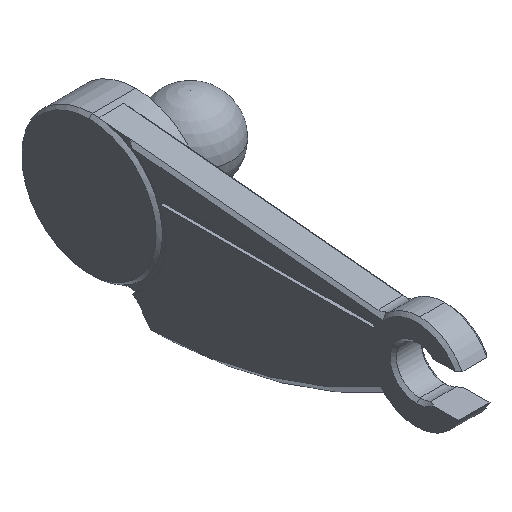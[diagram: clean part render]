
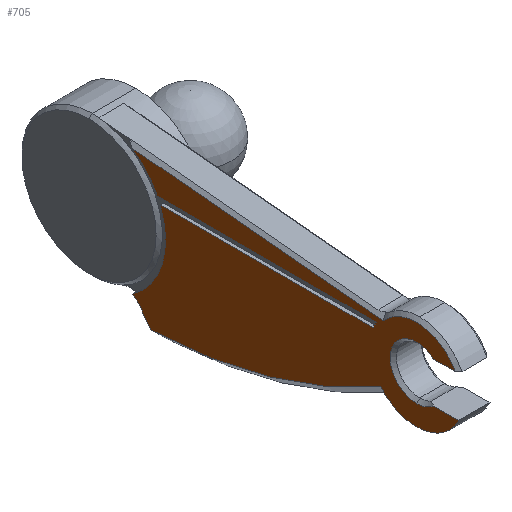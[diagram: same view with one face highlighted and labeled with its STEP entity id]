
A CAD part, isometric view. The second image highlights one B-rep face of the part: STEP entity #705.
In plain terms, the highlighted planar face has unit normal (-1, 0, 0).
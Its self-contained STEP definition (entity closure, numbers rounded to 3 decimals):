
#3 = VERTEX_POINT ( 'NONE', #1080 ) ;
#10 = CARTESIAN_POINT ( 'NONE',  ( 0., 0., 0. ) ) ;
#16 = CARTESIAN_POINT ( 'NONE',  ( 0., 14.078, -10.228 ) ) ;
#37 = ORIENTED_EDGE ( 'NONE', *, *, #1153, .T. ) ;
#50 = ORIENTED_EDGE ( 'NONE', *, *, #354, .T. ) ;
#62 = DIRECTION ( 'NONE',  ( 1., 0., 0. ) ) ;
#78 = EDGE_CURVE ( 'NONE', #1399, #124, #428, .T. ) ;
#109 = EDGE_CURVE ( 'NONE', #505, #151, #150, .T. ) ;
#124 = VERTEX_POINT ( 'NONE', #1288 ) ;
#134 = CARTESIAN_POINT ( 'NONE',  ( 0., 0., 0. ) ) ;
#137 = CIRCLE ( 'NONE', #275, 4.9 ) ;
#149 = DIRECTION ( 'NONE',  ( 1., 0., 0. ) ) ;
#150 = LINE ( 'NONE', #689, #819 ) ;
#151 = VERTEX_POINT ( 'NONE', #1274 ) ;
#176 = PLANE ( 'NONE',  #1131 ) ;
#188 = VERTEX_POINT ( 'NONE', #752 ) ;
#198 = DIRECTION ( 'NONE',  ( 0., 0., -1. ) ) ;
#209 = VERTEX_POINT ( 'NONE', #774 ) ;
#212 = CARTESIAN_POINT ( 'NONE',  ( 0., 0., -1.3 ) ) ;
#222 = CIRCLE ( 'NONE', #678, 1. ) ;
#223 = CARTESIAN_POINT ( 'NONE',  ( 0., 2.304, -1.921 ) ) ;
#270 = ORIENTED_EDGE ( 'NONE', *, *, #1417, .F. ) ;
#275 = AXIS2_PLACEMENT_3D ( 'NONE', #603, #427, #198 ) ;
#281 = EDGE_CURVE ( 'NONE', #1363, #413, #1224, .T. ) ;
#290 = ORIENTED_EDGE ( 'NONE', *, *, #300, .T. ) ;
#299 = DIRECTION ( 'NONE',  ( 1., 0., 0. ) ) ;
#300 = EDGE_CURVE ( 'NONE', #3, #813, #1655, .T. ) ;
#301 = AXIS2_PLACEMENT_3D ( 'NONE', #10, #942, #1617 ) ;
#307 = AXIS2_PLACEMENT_3D ( 'NONE', #1066, #1620, #1351 ) ;
#316 = LINE ( 'NONE', #16, #1761 ) ;
#328 = DIRECTION ( 'NONE',  ( 0., 0., -1. ) ) ;
#332 = DIRECTION ( 'NONE',  ( 0., -1., 0. ) ) ;
#338 = AXIS2_PLACEMENT_3D ( 'NONE', #134, #687, #405 ) ;
#348 = DIRECTION ( 'NONE',  ( 0., 0., -1. ) ) ;
#349 = CARTESIAN_POINT ( 'NONE',  ( 0., 18.63, -5.663 ) ) ;
#354 = EDGE_CURVE ( 'NONE', #952, #1497, #621, .T. ) ;
#405 = DIRECTION ( 'NONE',  ( 0., 0., -1. ) ) ;
#413 = VERTEX_POINT ( 'NONE', #909 ) ;
#416 = DIRECTION ( 'NONE',  ( 0., 0., -1. ) ) ;
#420 = EDGE_CURVE ( 'NONE', #209, #188, #222, .T. ) ;
#427 = DIRECTION ( 'NONE',  ( 1., 0., 0. ) ) ;
#428 = LINE ( 'NONE', #1529, #1401 ) ;
#429 = ORIENTED_EDGE ( 'NONE', *, *, #281, .F. ) ;
#446 = DIRECTION ( 'NONE',  ( 1., 0., 0. ) ) ;
#452 = CIRCLE ( 'NONE', #307, 1.7 ) ;
#455 = EDGE_CURVE ( 'NONE', #1497, #505, #452, .T. ) ;
#458 = DIRECTION ( 'NONE',  ( -1., 0., 0. ) ) ;
#462 = DIRECTION ( 'NONE',  ( 0., 0.588, 0.809 ) ) ;
#481 = CARTESIAN_POINT ( 'NONE',  ( 0., 16.622, 1.5 ) ) ;
#492 = VERTEX_POINT ( 'NONE', #1011 ) ;
#496 = VECTOR ( 'NONE', #1343, 1000. ) ;
#505 = VERTEX_POINT ( 'NONE', #515 ) ;
#515 = CARTESIAN_POINT ( 'NONE',  ( 0., -1.095, 1.3 ) ) ;
#529 = ORIENTED_EDGE ( 'NONE', *, *, #109, .T. ) ;
#539 = ORIENTED_EDGE ( 'NONE', *, *, #965, .T. ) ;
#603 = CARTESIAN_POINT ( 'NONE',  ( 0., 21., -0.7 ) ) ;
#613 = ORIENTED_EDGE ( 'NONE', *, *, #941, .T. ) ;
#621 = CIRCLE ( 'NONE', #878, 1.7 ) ;
#669 = ORIENTED_EDGE ( 'NONE', *, *, #420, .T. ) ;
#678 = AXIS2_PLACEMENT_3D ( 'NONE', #349, #1170, #1470 ) ;
#682 = CARTESIAN_POINT ( 'NONE',  ( 0., 0., 0. ) ) ;
#687 = DIRECTION ( 'NONE',  ( 1., 0., 0. ) ) ;
#688 = CARTESIAN_POINT ( 'NONE',  ( 0., 0., -1.7 ) ) ;
#689 = CARTESIAN_POINT ( 'NONE',  ( 0., 0., 1.3 ) ) ;
#702 = VECTOR ( 'NONE', #897, 1000. ) ;
#705 = ADVANCED_FACE ( 'NONE', ( #853 ), #176, .F. ) ;
#707 = DIRECTION ( 'NONE',  ( 0., 0.995, 0.096 ) ) ;
#732 = CIRCLE ( 'NONE', #301, 2.8 ) ;
#741 = CARTESIAN_POINT ( 'NONE',  ( 0., -1.095, -1.3 ) ) ;
#742 = CARTESIAN_POINT ( 'NONE',  ( 0., 0., 0. ) ) ;
#752 = CARTESIAN_POINT ( 'NONE',  ( 0., 17.821, -5.075 ) ) ;
#774 = CARTESIAN_POINT ( 'NONE',  ( 0., 18.234, -4.745 ) ) ;
#779 = LINE ( 'NONE', #1273, #702 ) ;
#786 = EDGE_CURVE ( 'NONE', #492, #1363, #779, .T. ) ;
#795 = CARTESIAN_POINT ( 'NONE',  ( 0., 2.791, 1.1 ) ) ;
#813 = VERTEX_POINT ( 'NONE', #223 ) ;
#819 = VECTOR ( 'NONE', #332, 1000. ) ;
#839 = CARTESIAN_POINT ( 'NONE',  ( 0., 0., 0. ) ) ;
#852 = ORIENTED_EDGE ( 'NONE', *, *, #920, .F. ) ;
#853 = FACE_OUTER_BOUND ( 'NONE', #1505, .T. ) ;
#866 = CARTESIAN_POINT ( 'NONE',  ( 0., 18.07, 25.35 ) ) ;
#875 = AXIS2_PLACEMENT_3D ( 'NONE', #839, #299, #997 ) ;
#878 = AXIS2_PLACEMENT_3D ( 'NONE', #1675, #446, #1547 ) ;
#897 = DIRECTION ( 'NONE',  ( 0., -1., 0. ) ) ;
#901 = ORIENTED_EDGE ( 'NONE', *, *, #78, .T. ) ;
#909 = CARTESIAN_POINT ( 'NONE',  ( 0., 2.598, 1.5 ) ) ;
#920 = EDGE_CURVE ( 'NONE', #413, #1762, #1243, .T. ) ;
#941 = EDGE_CURVE ( 'NONE', #124, #1762, #1160, .T. ) ;
#942 = DIRECTION ( 'NONE',  ( -1., 0., 0. ) ) ;
#952 = VERTEX_POINT ( 'NONE', #688 ) ;
#965 = EDGE_CURVE ( 'NONE', #151, #1399, #732, .T. ) ;
#997 = DIRECTION ( 'NONE',  ( 0., 0., -1. ) ) ;
#1004 = LINE ( 'NONE', #212, #1515 ) ;
#1011 = CARTESIAN_POINT ( 'NONE',  ( 0., 16.443, 1.1 ) ) ;
#1026 = EDGE_CURVE ( 'NONE', #1089, #952, #1250, .T. ) ;
#1049 = EDGE_CURVE ( 'NONE', #492, #209, #137, .T. ) ;
#1066 = CARTESIAN_POINT ( 'NONE',  ( 0., 0., 0. ) ) ;
#1080 = CARTESIAN_POINT ( 'NONE',  ( 0., 17.052, -6.134 ) ) ;
#1089 = VERTEX_POINT ( 'NONE', #741 ) ;
#1131 = AXIS2_PLACEMENT_3D ( 'NONE', #682, #1264, #1679 ) ;
#1153 = EDGE_CURVE ( 'NONE', #1257, #1089, #1004, .T. ) ;
#1159 = CARTESIAN_POINT ( 'NONE',  ( 0., -2.704, -1.3 ) ) ;
#1160 = CIRCLE ( 'NONE', #1619, 4.9 ) ;
#1169 = DIRECTION ( 'NONE',  ( 0., 1., 0. ) ) ;
#1170 = DIRECTION ( 'NONE',  ( 1., 0., 0. ) ) ;
#1194 = CIRCLE ( 'NONE', #338, 3. ) ;
#1201 = ORIENTED_EDGE ( 'NONE', *, *, #1049, .T. ) ;
#1224 = CIRCLE ( 'NONE', #1427, 3. ) ;
#1237 = CARTESIAN_POINT ( 'NONE',  ( 0., 21., -0.7 ) ) ;
#1243 = LINE ( 'NONE', #1644, #496 ) ;
#1250 = CIRCLE ( 'NONE', #875, 1.7 ) ;
#1257 = VERTEX_POINT ( 'NONE', #1159 ) ;
#1264 = DIRECTION ( 'NONE',  ( 1., 0., 0. ) ) ;
#1273 = CARTESIAN_POINT ( 'NONE',  ( 0., 0., 1.1 ) ) ;
#1274 = CARTESIAN_POINT ( 'NONE',  ( 0., -2.48, 1.3 ) ) ;
#1288 = CARTESIAN_POINT ( 'NONE',  ( 0., 18.25, 3.356 ) ) ;
#1343 = DIRECTION ( 'NONE',  ( 0., 1., 0. ) ) ;
#1351 = DIRECTION ( 'NONE',  ( 0., 0., -1. ) ) ;
#1363 = VERTEX_POINT ( 'NONE', #795 ) ;
#1372 = CARTESIAN_POINT ( 'NONE',  ( 0., 2.138, 1.808 ) ) ;
#1399 = VERTEX_POINT ( 'NONE', #1372 ) ;
#1401 = VECTOR ( 'NONE', #707, 1000. ) ;
#1407 = ORIENTED_EDGE ( 'NONE', *, *, #786, .F. ) ;
#1417 = EDGE_CURVE ( 'NONE', #1257, #813, #1194, .T. ) ;
#1427 = AXIS2_PLACEMENT_3D ( 'NONE', #742, #62, #328 ) ;
#1470 = DIRECTION ( 'NONE',  ( 0., 0., -1. ) ) ;
#1492 = EDGE_CURVE ( 'NONE', #3, #188, #316, .T. ) ;
#1497 = VERTEX_POINT ( 'NONE', #1540 ) ;
#1505 = EDGE_LOOP ( 'NONE', ( #37, #1749, #50, #1536, #529, #539, #901, #613, #852, #429, #1407, #1201, #669, #1687, #290, #270 ) ) ;
#1515 = VECTOR ( 'NONE', #1169, 1000. ) ;
#1529 = CARTESIAN_POINT ( 'NONE',  ( 0., -0.153, 1.588 ) ) ;
#1536 = ORIENTED_EDGE ( 'NONE', *, *, #455, .T. ) ;
#1540 = CARTESIAN_POINT ( 'NONE',  ( 0., 0., 1.7 ) ) ;
#1542 = AXIS2_PLACEMENT_3D ( 'NONE', #866, #458, #348 ) ;
#1547 = DIRECTION ( 'NONE',  ( 0., 0., -1. ) ) ;
#1617 = DIRECTION ( 'NONE',  ( 0., 0., -1. ) ) ;
#1619 = AXIS2_PLACEMENT_3D ( 'NONE', #1237, #149, #416 ) ;
#1620 = DIRECTION ( 'NONE',  ( 1., 0., 0. ) ) ;
#1644 = CARTESIAN_POINT ( 'NONE',  ( 0., 0., 1.5 ) ) ;
#1655 = CIRCLE ( 'NONE', #1542, 31.5 ) ;
#1675 = CARTESIAN_POINT ( 'NONE',  ( 0., 0., 0. ) ) ;
#1679 = DIRECTION ( 'NONE',  ( 0., 0., -1. ) ) ;
#1687 = ORIENTED_EDGE ( 'NONE', *, *, #1492, .F. ) ;
#1749 = ORIENTED_EDGE ( 'NONE', *, *, #1026, .T. ) ;
#1761 = VECTOR ( 'NONE', #462, 1000. ) ;
#1762 = VERTEX_POINT ( 'NONE', #481 ) ;
